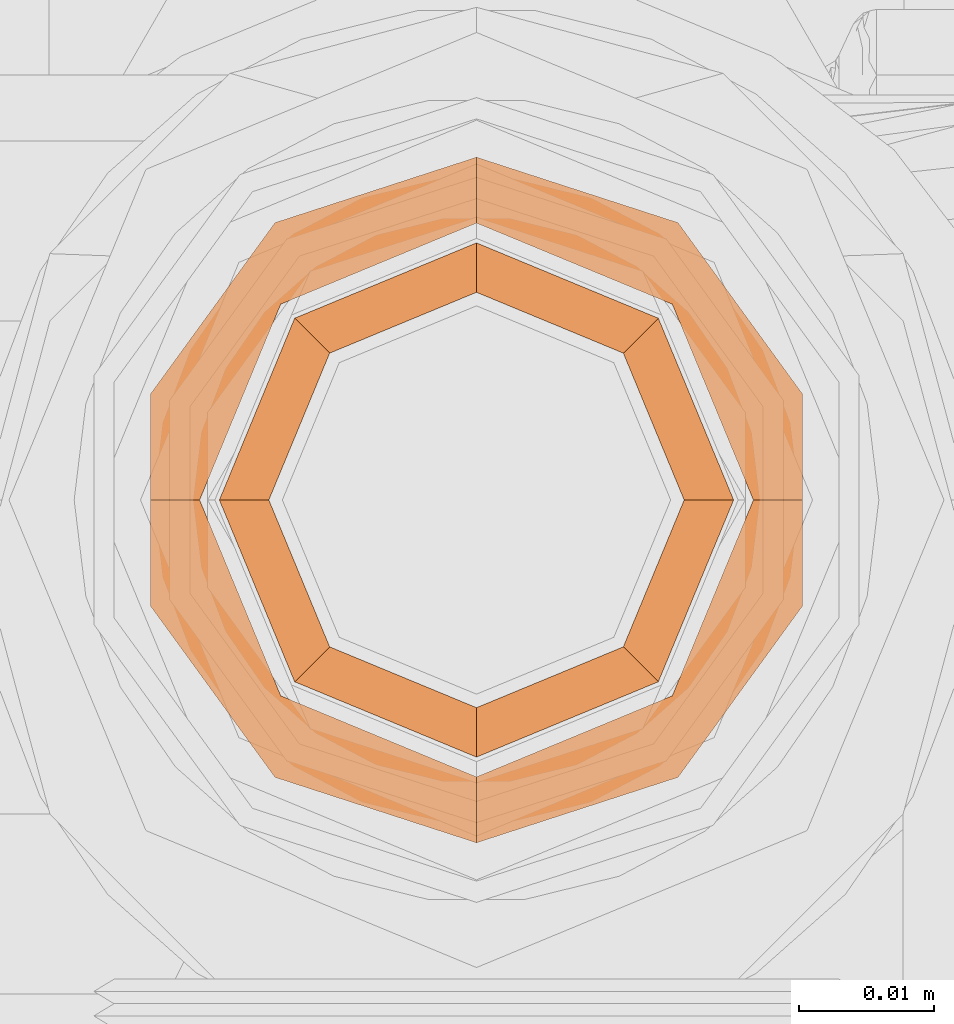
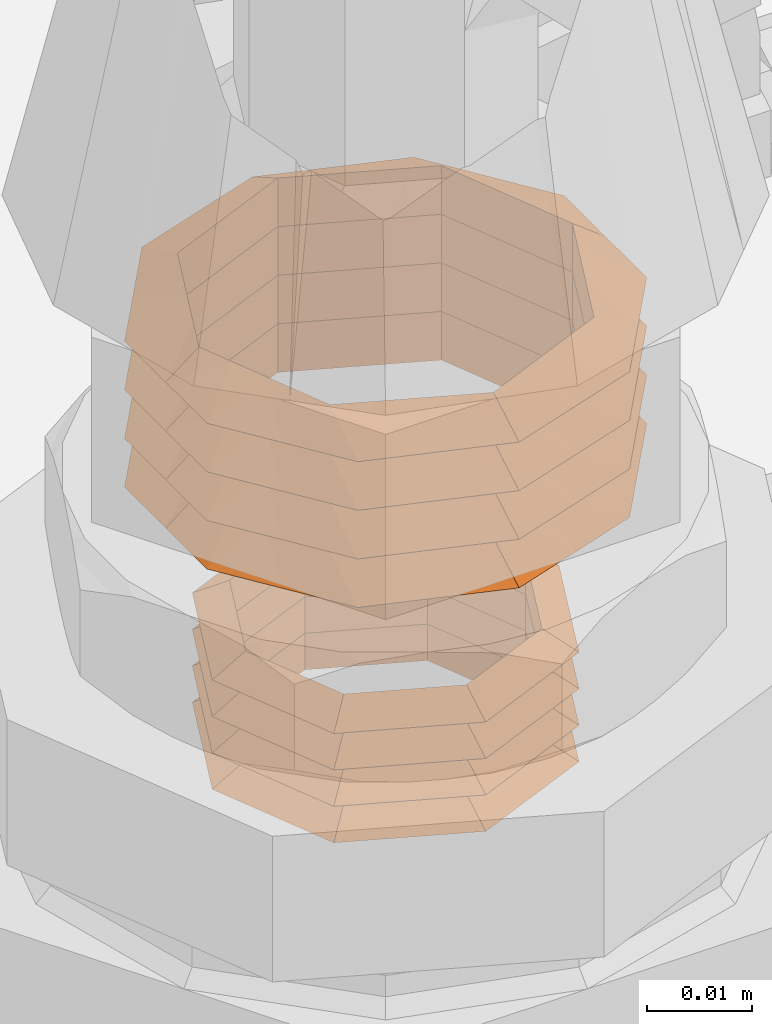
# One storey, part 43 of 43: 8 proxies.
"""IFC2X3 building model written with IfcOpenShell, lengths in millimetres."""

from ifc_helpers import new_model, entity, si_unit, converted_unit, derived_unit, direction, frame, origin, place, context, subcontext, project, spatial, faceted_brep, source, transform, mapped, material, type_object, type_shapes, element, save


model = new_model("IFC2X3")

# Units and contexts
model_context = context("Model", 3, precision=0.01, world=origin(), true_north=direction((6.123031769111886e-17, 1.0)))
body_context = subcontext(model_context, "Body", "Model", "MODEL_VIEW")
ifc_project = project(units=[si_unit("LENGTHUNIT", "METRE", prefix="MILLI"), si_unit("AREAUNIT", "SQUARE_METRE"), si_unit("VOLUMEUNIT", "CUBIC_METRE"), converted_unit("PLANEANGLEUNIT", "DEGREE", entity("IfcRatioMeasure", 0.017453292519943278), si_unit("PLANEANGLEUNIT", "RADIAN"), dimensions=[0, 0, 0, 0, 0, 0, 0]), si_unit("MASSUNIT", "GRAM", prefix="KILO"), derived_unit("MASSDENSITYUNIT", [(si_unit("MASSUNIT", "GRAM", prefix="KILO"), 1), (si_unit("LENGTHUNIT", "METRE"), -3)]), derived_unit("MOMENTOFINERTIAUNIT", [(si_unit("LENGTHUNIT", "METRE"), 4)]), si_unit("TIMEUNIT", "SECOND"), si_unit("FREQUENCYUNIT", "HERTZ"), si_unit("THERMODYNAMICTEMPERATUREUNIT", "DEGREE_CELSIUS"), derived_unit("THERMALTRANSMITTANCEUNIT", [(si_unit("MASSUNIT", "GRAM", prefix="KILO"), 1), (si_unit("THERMODYNAMICTEMPERATUREUNIT", "KELVIN"), -1), (si_unit("TIMEUNIT", "SECOND"), -3)]), derived_unit("VOLUMETRICFLOWRATEUNIT", [(si_unit("LENGTHUNIT", "METRE"), 3), (si_unit("TIMEUNIT", "SECOND"), -1)]), derived_unit("MASSFLOWRATEUNIT", [(si_unit("MASSUNIT", "GRAM", prefix="KILO"), 1), (si_unit("TIMEUNIT", "SECOND"), -1)]), derived_unit("ROTATIONALFREQUENCYUNIT", [(si_unit("TIMEUNIT", "SECOND"), -1)]), si_unit("ELECTRICCURRENTUNIT", "AMPERE"), si_unit("ELECTRICVOLTAGEUNIT", "VOLT"), si_unit("POWERUNIT", "WATT"), si_unit("FORCEUNIT", "NEWTON", prefix="KILO"), si_unit("ILLUMINANCEUNIT", "LUX"), si_unit("LUMINOUSFLUXUNIT", "LUMEN"), si_unit("LUMINOUSINTENSITYUNIT", "CANDELA"), derived_unit("USERDEFINED", [(si_unit("MASSUNIT", "GRAM", prefix="KILO"), -1), (si_unit("LENGTHUNIT", "METRE"), -2), (si_unit("TIMEUNIT", "SECOND"), 3), (si_unit("LUMINOUSFLUXUNIT", "LUMEN"), 1)]), derived_unit("SOUNDPOWERUNIT", [(si_unit("MASSUNIT", "GRAM", prefix="KILO"), 1), (si_unit("LENGTHUNIT", "METRE"), 2), (si_unit("TIMEUNIT", "SECOND"), -3)]), derived_unit("SOUNDPRESSUREUNIT", [(si_unit("MASSUNIT", "GRAM", prefix="KILO"), 1), (si_unit("LENGTHUNIT", "METRE"), -1), (si_unit("TIMEUNIT", "SECOND"), -2)]), derived_unit("LINEARVELOCITYUNIT", [(si_unit("LENGTHUNIT", "METRE"), 1), (si_unit("TIMEUNIT", "SECOND"), -1)]), si_unit("PRESSUREUNIT", "PASCAL"), derived_unit("USERDEFINED", [(si_unit("LENGTHUNIT", "METRE"), -2), (si_unit("MASSUNIT", "GRAM", prefix="KILO"), 1), (si_unit("TIMEUNIT", "SECOND"), -2)]), derived_unit("LINEARFORCEUNIT", [(si_unit("MASSUNIT", "GRAM", prefix="KILO"), 1), (si_unit("LENGTHUNIT", "METRE"), 1), (si_unit("TIMEUNIT", "SECOND"), -2), (si_unit("LENGTHUNIT", "METRE"), -1)]), derived_unit("PLANARFORCEUNIT", [(si_unit("MASSUNIT", "GRAM", prefix="KILO"), 1), (si_unit("LENGTHUNIT", "METRE"), 1), (si_unit("TIMEUNIT", "SECOND"), -2), (si_unit("LENGTHUNIT", "METRE"), -2)])], contexts=[model_context])

# Site, building, storey
site_placement = place(None, origin())
site = spatial("IfcSite", under=ifc_project, at=site_placement, Name="Default", CompositionType="ELEMENT")
building_placement = place(site_placement, origin())
building = spatial("IfcBuilding", under=site, at=building_placement, CompositionType="ELEMENT")
storey_placement = place(building_placement, frame((0.0, 0.0, 270.0)))
storey = spatial("IfcBuildingStorey", under=building, at=storey_placement, Name="Niveau 0", CompositionType="ELEMENT", Elevation=270.0)

# Proxies
ifc_material = material(Name="Copper Conex")
building_element_proxy_type_1 = type_object("IfcBuildingElementProxyType", Name="Male:Male", PredefinedType="NOTDEFINED", material=ifc_material)
shared_shape_1 = source(origin(), body_context, "Body", "Brep", [
    faceted_brep([(0.0, 14.929745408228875, -20.549031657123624), (2.82200000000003, 14.504282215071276, -14.504282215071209), (2.82200000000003, 10.878211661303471, -16.006249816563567), (2.82200000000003, 10.878211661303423, 16.006249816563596), (2.82200000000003, 14.50428221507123, 14.504282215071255), (0.0, 14.929745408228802, 20.549031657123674), (2.82200000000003, 7.252141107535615, 17.508217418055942), (2.82200000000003, 8.898529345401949, 16.826261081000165), (2.82200000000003, 7.252141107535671, -17.508217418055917), (0.0, 7.464872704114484, -22.974515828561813), (0.0, 10.170582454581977, -22.09537743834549), (0.0, 11.19730905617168, -21.76177374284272), (0.0, 19.543290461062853, 14.199031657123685), (2.82200000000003, 16.006249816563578, 10.87821166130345), (2.82200000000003, 17.508217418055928, 7.252141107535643), (0.0, 0.0, 25.4), (2.82200000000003, 3.626070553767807, 19.010185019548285), (0.0, 7.464872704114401, 22.974515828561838), (0.0, 24.156835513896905, 0.0), (2.82200000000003, 19.01018501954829, -3.6260705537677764), (0.0, 24.156835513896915, -7.84903165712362), (0.0, 24.15683551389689, 7.849031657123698), (2.82200000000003, 19.01018501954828, 3.6260705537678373), (2.82200000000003, 20.512152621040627, 0.0), (0.0, 17.23651793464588, -17.374031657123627), (0.0, 19.5432904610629, -14.199031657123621), (2.82200000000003, 17.508217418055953, -7.252141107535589), (0.0, 0.0, -25.4), (2.82200000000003, 3.626070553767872, -19.01018501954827), (2.82200000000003, 0.0, -20.512152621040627), (2.82200000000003, 16.006249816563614, -10.878211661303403), (0.0, 5.411419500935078, -23.641723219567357), (2.82200000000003, 0.0, 20.512152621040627), (2.82200000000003, 4.449264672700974, 18.669206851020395), (0.0, -14.929745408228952, 20.549031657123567), (2.82200000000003, -14.504282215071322, 14.504282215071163), (2.82200000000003, -10.878211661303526, 16.00624981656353), (2.82200000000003, -10.87821166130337, -16.006249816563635), (2.82200000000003, -14.504282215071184, -14.504282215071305), (0.0, -14.929745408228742, -20.549031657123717), (2.82200000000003, -7.252141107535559, -17.508217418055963), (2.82200000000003, -8.898529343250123, -16.826261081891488), (2.82200000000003, -7.252141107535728, 17.508217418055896), (0.0, -7.464872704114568, 22.974515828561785), (0.0, -10.17058245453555, 22.095377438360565), (0.0, -11.19730905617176, 21.761773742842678), (0.0, -19.543290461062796, -14.199031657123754), (2.82200000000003, -16.006249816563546, -10.878211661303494), (2.82200000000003, -17.508217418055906, -7.252141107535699), (2.82200000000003, -3.6260705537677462, -19.0101850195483), (0.0, -7.464872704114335, -22.974515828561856), (0.0, -24.156835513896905, 0.0), (2.82200000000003, -19.0101850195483, 3.6260705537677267), (0.0, -24.156835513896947, 7.849031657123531), (0.0, -24.156835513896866, -7.849031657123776), (2.82200000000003, -19.010185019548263, -3.626070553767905), (2.82200000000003, -20.512152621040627, 0.0), (0.0, -17.236517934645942, 17.37403165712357), (0.0, -19.543290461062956, 14.199031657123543), (2.82200000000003, -17.508217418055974, 7.252141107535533), (2.82200000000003, -3.62607055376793, 19.010185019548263), (2.82200000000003, -16.006249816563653, 10.87821166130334), (0.0, -5.4114195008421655, 23.64172321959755), (2.82200000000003, -4.449264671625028, -18.669206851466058), (-2.82200000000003, 10.878211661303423, 16.006249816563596), (-2.82200000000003, 7.252141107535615, 17.508217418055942), (-2.82200000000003, 14.50428221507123, 14.504282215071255), (-2.82200000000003, 14.504282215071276, -14.504282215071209), (-2.82200000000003, 10.878211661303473, -16.006249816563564), (-2.82200000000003, 17.508217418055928, 7.252141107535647), (-2.82200000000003, 16.00624981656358, 10.878211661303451), (-2.82200000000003, 17.50821741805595, -7.25214110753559), (-2.82200000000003, 19.010185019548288, -3.626070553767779), (-2.82200000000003, 3.626070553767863, -19.010185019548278), (-2.82200000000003, 0.0, -20.512152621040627), (-2.82200000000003, 16.006249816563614, -10.8782116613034), (-2.82200000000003, 20.512152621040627, 0.0), (-2.82200000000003, 7.2521411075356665, -17.508217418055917), (-2.82200000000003, 3.6260705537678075, 19.010185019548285), (-2.82200000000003, 0.0, 20.512152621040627), (-2.82200000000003, 19.01018501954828, 3.6260705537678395), (-2.82200000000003, 4.449264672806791, 18.669206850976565), (-2.82200000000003, 4.449264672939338, -18.669206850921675), (-2.82200000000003, -10.878211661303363, -16.006249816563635), (-2.82200000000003, -7.252141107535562, -17.508217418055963), (-2.82200000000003, -14.504282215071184, -14.504282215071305), (-2.82200000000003, -14.504282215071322, 14.504282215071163), (-2.82200000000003, -10.878211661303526, 16.00624981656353), (-2.82200000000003, -17.508217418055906, -7.252141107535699), (-2.82200000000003, -16.00624981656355, -10.878211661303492), (-2.82200000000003, -17.508217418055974, 7.252141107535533), (-2.82200000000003, -19.010185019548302, 3.626070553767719), (-2.82200000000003, -3.62607055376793, 19.010185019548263), (-2.82200000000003, -16.00624981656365, 10.878211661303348), (-2.82200000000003, -20.512152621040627, 0.0), (-2.82200000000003, -7.252141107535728, 17.508217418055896), (-2.82200000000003, -3.6260705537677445, -19.0101850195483), (-2.82200000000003, -19.010185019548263, -3.6260705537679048), (-2.82200000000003, -4.449264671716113, -18.669206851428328), (-2.82200000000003, -4.449264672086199, 18.669206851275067)], [[[0, 1, 2]], [[3, 4, 5, 6, 7]], [[8, 9, 10, 11]], [[12, 4, 13, 14]], [[15, 16, 17]], [[18, 19, 20]], [[21, 22, 18]], [[18, 22, 23]], [[1, 0, 24, 25]], [[21, 14, 22]], [[19, 26, 20]], [[27, 28, 29]], [[25, 26, 30, 1]], [[28, 27, 31, 9]], [[12, 5, 4]], [[14, 21, 12]], [[16, 15, 32]], [[19, 18, 23]], [[6, 5, 17]], [[8, 28, 9]], [[0, 2, 11]], [[2, 8, 11]], [[26, 25, 20]], [[17, 16, 33, 6]], [[34, 35, 36]], [[37, 38, 39, 40, 41]], [[42, 43, 44, 45]], [[46, 38, 47, 48]], [[27, 49, 50]], [[51, 52, 53]], [[54, 55, 51]], [[51, 55, 56]], [[35, 34, 57, 58]], [[54, 48, 55]], [[52, 59, 53]], [[15, 60, 32]], [[58, 59, 61, 35]], [[60, 15, 62, 43]], [[46, 39, 38]], [[48, 54, 46]], [[49, 27, 29]], [[52, 51, 56]], [[40, 39, 50]], [[42, 60, 43]], [[34, 36, 45]], [[36, 42, 45]], [[59, 58, 53]], [[50, 49, 63, 40]], [[64, 65, 5, 66]], [[67, 25, 24, 0]], [[5, 65, 17]], [[67, 0, 68]], [[12, 69, 70, 66]], [[20, 71, 72]], [[71, 20, 25]], [[73, 27, 74]], [[69, 12, 21]], [[75, 71, 25, 67]], [[76, 18, 72]], [[77, 10, 9, 31]], [[78, 15, 17]], [[78, 79, 15]], [[68, 10, 77]], [[18, 20, 72]], [[18, 80, 21]], [[66, 5, 12]], [[80, 18, 76]], [[80, 69, 21]], [[17, 65, 81, 78]], [[68, 0, 11, 10]], [[27, 73, 31]], [[31, 73, 82, 77]], [[83, 84, 39, 85]], [[86, 58, 57, 34]], [[39, 84, 50]], [[86, 34, 87]], [[46, 88, 89, 85]], [[53, 90, 91]], [[90, 53, 58]], [[92, 15, 79]], [[88, 46, 54]], [[93, 90, 58, 86]], [[94, 51, 91]], [[95, 44, 43, 62]], [[96, 27, 50]], [[96, 74, 27]], [[87, 44, 95]], [[51, 53, 91]], [[51, 97, 54]], [[85, 39, 46]], [[97, 51, 94]], [[97, 88, 54]], [[50, 84, 98, 96]], [[87, 34, 45, 44]], [[15, 92, 62]], [[62, 92, 99, 95]], [[79, 78, 81, 65, 64, 66, 4, 3, 7, 6, 33, 16, 32]], [[70, 69, 80, 76, 23, 22, 14, 13, 4, 66]], [[8, 2, 1, 67, 68, 77, 82, 73, 74, 29, 28]], [[19, 23, 76, 72, 71, 75, 67, 1, 30, 26]], [[74, 96, 98, 84, 83, 85, 38, 37, 41, 40, 63, 49, 29]], [[89, 88, 97, 94, 56, 55, 48, 47, 38, 85]], [[42, 36, 35, 86, 87, 95, 99, 92, 79, 32, 60]], [[52, 56, 94, 91, 90, 93, 86, 35, 61, 59]]]),
])
type_shapes(building_element_proxy_type_1, [shared_shape_1])
for number, where, z_axis, x_axis, name in (
    (1, (-1682.0, -9305.0, 1005.0160278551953), (0.0, -1.0, 0.0), (0.0, 0.0, -1.0), "Male:Male"),
    (2, (-1682.0, -9305.0, 1010.660027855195), (0.0, -1.0, 0.0), (0.0, 0.0, -1.0), "Male:Male"),
    (3, (-1682.0, -9305.0, 1016.3040278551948), (0.0, -1.0, 0.0), (0.0, 0.0, -1.0), "Male:Male"),
    (4, (-1682.0, -9305.0, 1021.9480278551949), (0.0, -1.0, 0.0), (0.0, 0.0, -1.0), "Male:Male"),
):
    element("IfcBuildingElementProxy", number, at=place(storey_placement, frame(where, z_axis=z_axis, x_axis=x_axis)), inside=storey, type_object=building_element_proxy_type_1, material=ifc_material, Name=name, ObjectType="Male:Male", context=body_context, shape_type="MappedRepresentation", body=[
        mapped(shared_shape_1, transform((0.0, 0.0, 0.0), scale=1.0)),
    ])
building_element_proxy_type_2 = type_object("IfcBuildingElementProxyType", Name="Male:Male", PredefinedType="NOTDEFINED", material=ifc_material)
shared_shape_2 = source(origin(), body_context, "Body", "Brep", [
    faceted_brep([(2.116499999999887, 0.0, 15.384114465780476), (0.0, 0.0, 19.050000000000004), (0.0, -3.3675960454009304, 17.655096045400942), (0.0, -4.510224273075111, 17.18180393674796), (0.0, -6.735192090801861, 16.260192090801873), (0.0, -10.102788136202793, 14.865288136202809), (0.0, -13.470384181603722, 13.470384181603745), (2.116499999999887, -10.878211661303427, 10.878211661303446), (2.116499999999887, -7.2845991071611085, 12.36673471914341), (2.116499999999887, -3.8531762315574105, 13.788076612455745), (2.116499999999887, -3.6422995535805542, 13.875424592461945), (2.116499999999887, -14.257638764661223, -2.7195529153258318), (2.116499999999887, -15.384114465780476, 0.0), (0.0, -19.050000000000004, 0.0), (0.0, -17.655096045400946, -3.367596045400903), (0.0, -16.260192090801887, -6.735192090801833), (0.0, -14.865288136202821, -10.102788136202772), (0.0, -13.470384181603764, -13.470384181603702), (2.116499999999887, -10.87821166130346, -10.878211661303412), (2.116499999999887, -12.004687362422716, -8.158658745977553), (2.116499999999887, -13.131163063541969, -5.439105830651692), (0.0, -14.86528813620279, 10.102788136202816), (0.0, -16.260192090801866, 6.735192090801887), (0.0, -17.655096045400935, 3.367596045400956), (2.1164999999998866, -14.257638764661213, 2.7195529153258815), (2.116499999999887, -13.131163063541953, 5.4391058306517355), (2.116499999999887, -12.004687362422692, 8.15865874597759), (0.0, -10.10278813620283, -14.865288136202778), (0.0, -6.735192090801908, -16.26019209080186), (0.0, -4.510224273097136, -17.18180393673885), (0.0, 0.0, -19.050000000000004), (2.116499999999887, 0.0, -15.384114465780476), (2.116499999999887, -2.719552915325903, -14.25763876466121), (2.116499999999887, -5.439105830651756, -13.131163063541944), (2.116499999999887, -8.15865874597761, -12.004687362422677), (0.0, 3.3675960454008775, -17.65509604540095), (0.0, 4.510224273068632, -17.18180393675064), (0.0, 6.7351920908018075, -16.260192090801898), (0.0, 10.102788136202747, -14.865288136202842), (0.0, 13.470384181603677, -13.470384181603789), (2.116499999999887, 10.878211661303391, -10.878211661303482), (2.116499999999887, 7.284599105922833, -12.366734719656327), (2.116499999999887, 3.8531762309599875, -13.788076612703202), (2.116499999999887, 3.642299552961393, -13.875424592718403), (2.116499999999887, 14.257638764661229, 2.7195529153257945), (2.116499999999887, 15.384114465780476, 0.0), (0.0, 19.050000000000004, 0.0), (0.0, 17.655096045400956, 3.3675960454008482), (0.0, 16.260192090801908, 6.735192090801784), (0.0, 14.865288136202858, 10.102788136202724), (0.0, 13.470384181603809, 13.470384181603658), (2.116499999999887, 10.878211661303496, 10.878211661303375), (2.116499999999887, 12.004687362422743, 8.158658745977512), (2.116499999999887, 13.131163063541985, 5.439105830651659), (0.0, 14.86528813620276, -10.10278813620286), (0.0, 16.260192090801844, -6.735192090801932), (0.0, 17.655096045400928, -3.367596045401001), (2.1164999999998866, 14.257638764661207, -2.7195529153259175), (2.116499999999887, 13.131163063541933, -5.439105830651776), (2.116499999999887, 12.004687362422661, -8.158658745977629), (0.0, 10.102788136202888, 14.865288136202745), (0.0, 6.735192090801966, 16.26019209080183), (0.0, 4.510224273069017, 17.1818039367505), (2.116499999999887, 2.7195529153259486, 14.2576387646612), (2.116499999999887, 5.439105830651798, 13.131163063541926), (2.116499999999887, 8.158658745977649, 12.004687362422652), (-2.116499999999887, 0.0, 15.384114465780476), (-2.116499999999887, -2.719552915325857, 14.257638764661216), (-2.116499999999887, -3.6422995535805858, 13.875424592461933), (-2.116499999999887, -5.439105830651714, 13.131163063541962), (-2.116499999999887, -7.2845991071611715, 12.366734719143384), (-2.116499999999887, -8.158658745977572, 12.004687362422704), (-2.116499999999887, -10.878211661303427, 10.878211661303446), (-2.116499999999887, -15.384114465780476, 0.0), (-2.1164999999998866, -14.257638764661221, -2.719552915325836), (-2.116499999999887, -13.131163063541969, -5.439105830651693), (-2.116499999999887, -12.004687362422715, -8.15865874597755), (-2.116499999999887, -10.87821166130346, -10.878211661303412), (-2.116499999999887, -12.004687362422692, 8.15865874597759), (-2.116499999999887, -13.131163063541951, 5.4391058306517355), (-2.116499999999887, -14.257638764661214, 2.7195529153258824), (-2.116499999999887, -8.158658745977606, -12.00468736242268), (-2.116499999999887, -5.439105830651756, -13.131163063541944), (-2.116499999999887, -2.7195529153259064, -14.257638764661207), (-2.116499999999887, -1.926588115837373, -14.58609553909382), (-2.116499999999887, 0.0, -15.384114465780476), (-2.116499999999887, 2.7195529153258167, -14.257638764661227), (-2.116499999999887, 3.6422995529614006, -13.875424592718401), (-2.116499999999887, 5.439105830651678, -13.131163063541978), (-2.116499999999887, 7.284599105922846, -12.366734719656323), (-2.116499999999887, 8.158658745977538, -12.004687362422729), (-2.116499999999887, 10.878211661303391, -10.878211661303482), (-2.116499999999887, 15.384114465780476, 0.0), (-2.116499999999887, 14.257638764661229, 2.7195529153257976), (-2.116499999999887, 13.131163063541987, 5.439105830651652), (-2.116499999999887, 12.004687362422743, 8.158658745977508), (-2.116499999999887, 10.878211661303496, 10.878211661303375), (-2.1164999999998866, 12.004687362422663, -8.158658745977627), (-2.116499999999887, 13.131163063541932, -5.439105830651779), (-2.116499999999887, 14.257638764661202, -2.719552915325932), (-2.116499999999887, 8.158658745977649, 12.004687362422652), (-2.116499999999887, 5.439105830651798, 13.131163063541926), (-2.116499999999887, 2.7195529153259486, 14.2576387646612), (-2.116499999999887, 1.9265881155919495, 14.586095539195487)], [[[0, 1, 2, 3, 4, 5, 6, 7, 8, 9, 10]], [[11, 12, 13, 14, 15, 16, 17, 18, 19, 20]], [[21, 22, 23, 13, 12, 24, 25, 26, 7, 6]], [[27, 28, 29, 30, 31, 32, 33, 34, 18, 17]], [[31, 30, 35, 36, 37, 38, 39, 40, 41, 42, 43]], [[44, 45, 46, 47, 48, 49, 50, 51, 52, 53]], [[54, 55, 56, 46, 45, 57, 58, 59, 40, 39]], [[60, 61, 62, 1, 0, 63, 64, 65, 51, 50]], [[6, 5, 4, 3, 2, 1, 66, 67, 68, 69, 70, 71, 72]], [[15, 14, 13, 73, 74, 75, 76, 77, 17, 16]], [[73, 13, 23, 22, 21, 6, 72, 78, 79, 80]], [[29, 28, 27, 17, 77, 81, 82, 83, 84, 85, 30]], [[39, 38, 37, 36, 35, 30, 85, 86, 87, 88, 89, 90, 91]], [[48, 47, 46, 92, 93, 94, 95, 96, 50, 49]], [[92, 46, 56, 55, 54, 39, 91, 97, 98, 99]], [[62, 61, 60, 50, 96, 100, 101, 102, 103, 66, 1]], [[7, 72, 71, 70, 69, 68, 67, 66, 0, 10, 9, 8]], [[12, 73, 80, 79, 78, 72, 7, 26, 25, 24]], [[82, 81, 77, 18, 34, 33, 32, 31, 85, 84, 83]], [[73, 12, 11, 20, 19, 18, 77, 76, 75, 74]], [[40, 91, 90, 89, 88, 87, 86, 85, 31, 43, 42, 41]], [[45, 92, 99, 98, 97, 91, 40, 59, 58, 57]], [[101, 100, 96, 51, 65, 64, 63, 0, 66, 103, 102]], [[92, 45, 44, 53, 52, 51, 96, 95, 94, 93]]]),
])
type_shapes(building_element_proxy_type_2, [shared_shape_2])
for number, where, z_axis, x_axis, name in (
    (5, (-1682.0, -9305.0, 985.5855278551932), (0.0, -1.0, 0.0), (0.0, 0.0, 1.0), "Male:Male"),
    (6, (-1682.0, -9305.0, 981.3525278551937), (0.0, -1.0, 0.0), (0.0, 0.0, 1.0), "Male:Male"),
    (7, (-1682.0, -9305.0, 977.1195278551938), (0.0, -1.0, 0.0), (0.0, 0.0, 1.0), "Male:Male"),
    (8, (-1682.0, -9305.0, 972.8865278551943), (0.0, -1.0, 0.0), (0.0, 0.0, 1.0), "Male:Male"),
):
    element("IfcBuildingElementProxy", number, at=place(storey_placement, frame(where, z_axis=z_axis, x_axis=x_axis)), inside=storey, type_object=building_element_proxy_type_2, material=ifc_material, Name=name, ObjectType="Male:Male", context=body_context, shape_type="MappedRepresentation", body=[
        mapped(shared_shape_2, transform((0.0, 0.0, 0.0), scale=1.0)),
    ])

save(model, "model.ifc")
